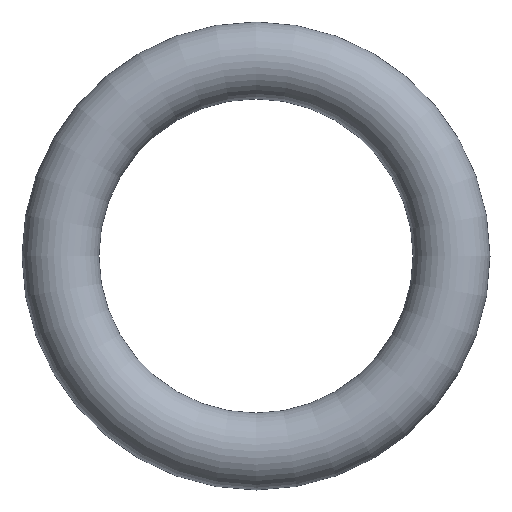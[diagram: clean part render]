
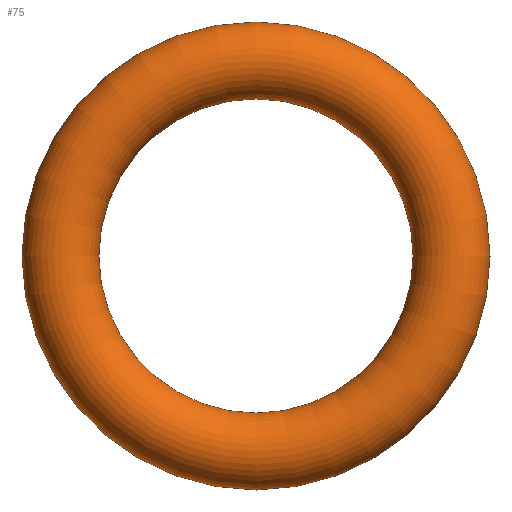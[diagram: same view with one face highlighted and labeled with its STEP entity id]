
A CAD part, front view. The second image highlights one B-rep face of the part: STEP entity #75.
In plain terms, the highlighted toroidal (fillet/blend) face has major radius 6.1 mm and minor radius 1.2 mm.
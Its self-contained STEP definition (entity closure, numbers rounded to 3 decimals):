
#75 = ADVANCED_FACE( '', ( #77 ), #78, .T. );
#77 = FACE_BOUND( '', #79, .T. );
#78 = TOROIDAL_SURFACE( '', #80, 6.1, 1.2 );
#79 = VERTEX_LOOP( '', #81 );
#80 = AXIS2_PLACEMENT_3D( '', #82, #83, #84 );
#81 = VERTEX_POINT( '', #85 );
#82 = CARTESIAN_POINT( '', ( 0., 0., 0. ) );
#83 = DIRECTION( '', ( 0., -1., 0. ) );
#84 = DIRECTION( '', ( 0., 0., -1. ) );
#85 = CARTESIAN_POINT( '', ( 0., 0., -7.3 ) );
